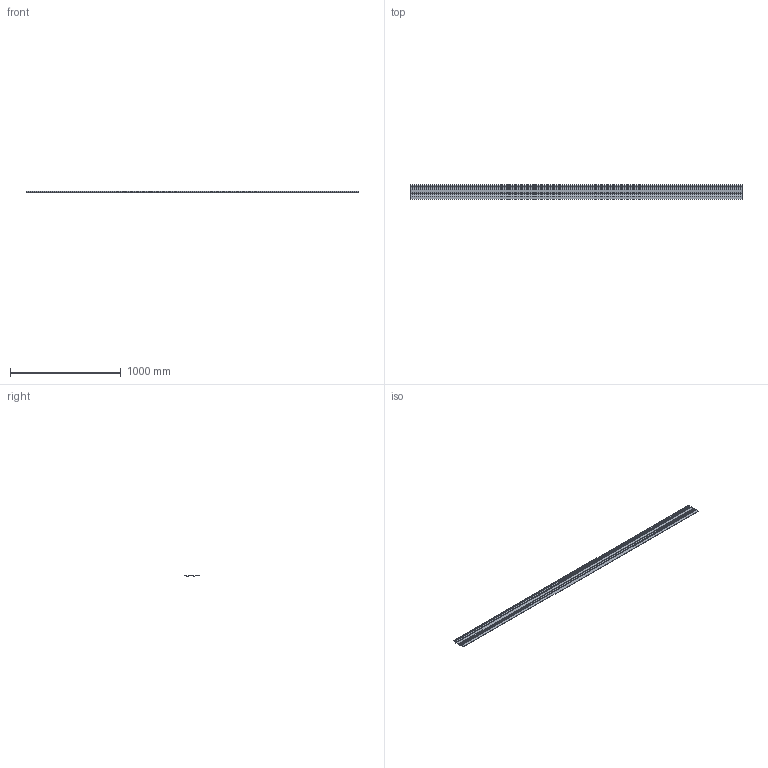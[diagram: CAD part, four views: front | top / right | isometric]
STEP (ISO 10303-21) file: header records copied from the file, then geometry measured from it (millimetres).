
FILE_DESCRIPTION (( 'STEP AP203' ), '1' );
FILE_NAME ('Sparklist H 130.STEP', '2014-09-29T05:16:58', ( '' ), ( '' ), 'SwSTEP 2.0', 'SolidWorks 2014', '' );
FILE_SCHEMA (( 'CONFIG_CONTROL_DESIGN' ));
Length unit declared in the file: millimetre
Products named in the file (1): Sparklist H 130
Bounding box: 3000 x 130 x 13.97 mm (x, y, z)
Volume: 1314665.5 mm3; surface area: 895320.1 mm2
Topology: 1 solids, 1 shells, 30 faces, 84 edges, 56 vertices
Faces by surface type: plane 18, cylinder 12
Entity records: 1049 total; most frequent: CARTESIAN_POINT 171, DIRECTION 170, ORIENTED_EDGE 168, EDGE_CURVE 84, LINE 60, VECTOR 60, VERTEX_POINT 56, AXIS2_PLACEMENT_3D 55
